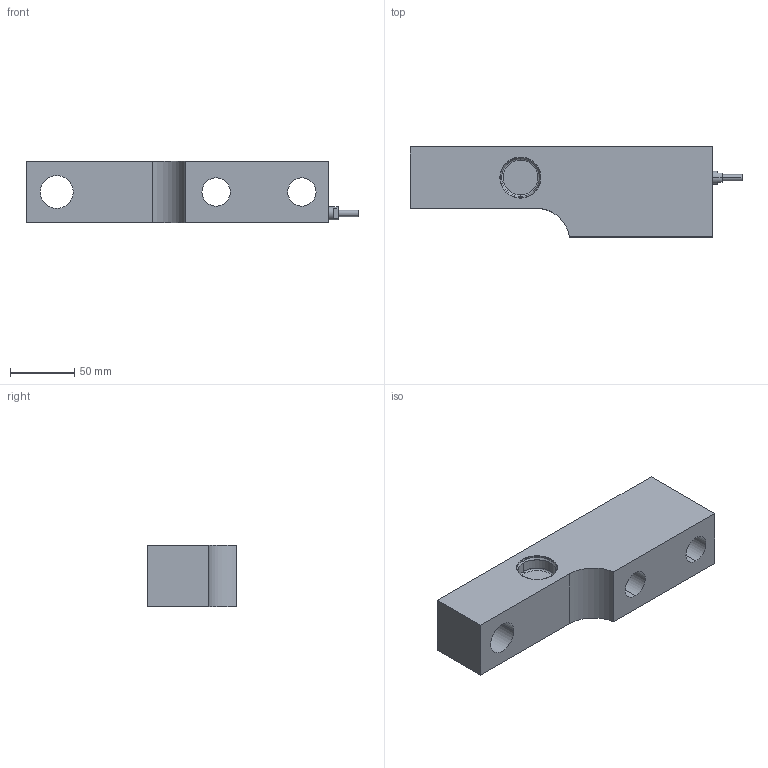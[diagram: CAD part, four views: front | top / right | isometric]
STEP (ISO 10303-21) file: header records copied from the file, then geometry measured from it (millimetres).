
FILE_DESCRIPTION (( 'STEP AP214' ), '1' );
FILE_NAME ('BM8G 5t.STEP', '2023-12-14T09:50:05', ( '' ), ( '' ), 'SwSTEP 2.0', 'SolidWorks 2023', '' );
FILE_SCHEMA (( 'AUTOMOTIVE_DESIGN' ));
Length unit declared in the file: millimetre
Products named in the file (6): BM8G conduit adaptor; Gage cup; BM8G 5t element; BM8G 5t; Cable part; J-Box cover
Assembly tree (6 placements, depth 2):
  BM8G 5t
    BM8G 5t element
    Gage cup  x2
    J-Box cover
    Cable part
    BM8G conduit adaptor
Bounding box: 258 x 69.9 x 47.5 mm (x, y, z)
Volume: 525830.1 mm3; surface area: 82427 mm2
Topology: 6 solids, 6 shells, 103 faces, 214 edges, 129 vertices
Faces by surface type: cylinder 43, plane 31, cone 17, torus 12
Entity records: 2512 total; most frequent: DIRECTION 461, CARTESIAN_POINT 392, ORIENTED_EDGE 356, AXIS2_PLACEMENT_3D 194, EDGE_CURVE 178, VERTEX_POINT 109, CIRCLE 101, EDGE_LOOP 99
